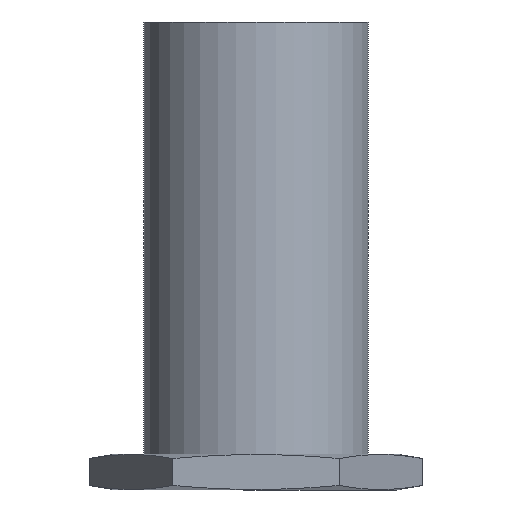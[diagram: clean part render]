
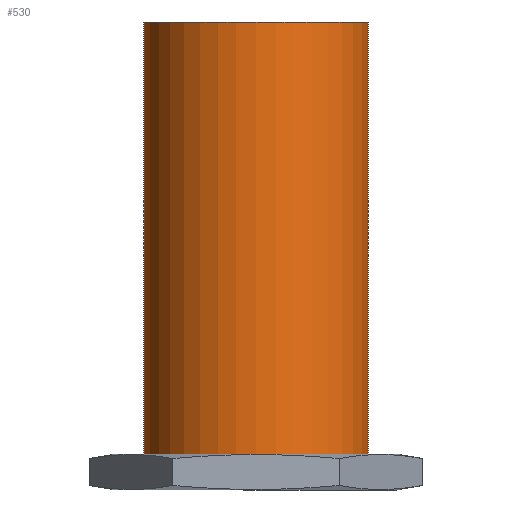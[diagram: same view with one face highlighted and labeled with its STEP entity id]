
A CAD part, front view. The second image highlights one B-rep face of the part: STEP entity #530.
In plain terms, the highlighted cylindrical face has radius 12.5 mm (diameter 25 mm), a partial arc.
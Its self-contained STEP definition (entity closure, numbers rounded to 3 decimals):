
#67 = CARTESIAN_POINT ( 'NONE',  ( -12.5, 0., 52. ) ) ;
#69 = CARTESIAN_POINT ( 'NONE',  ( 12.5, 0., 52. ) ) ;
#123 = CIRCLE ( 'NONE', #511, 12.5 ) ;
#159 = CARTESIAN_POINT ( 'NONE',  ( 12.5, 0., 52. ) ) ;
#319 = AXIS2_PLACEMENT_3D ( 'NONE', #555, #1522, #588 ) ;
#356 = DIRECTION ( 'NONE',  ( 1., 0., 0. ) ) ;
#387 = DIRECTION ( 'NONE',  ( 0., 0., 1. ) ) ;
#511 = AXIS2_PLACEMENT_3D ( 'NONE', #1317, #1497, #356 ) ;
#528 = ORIENTED_EDGE ( 'NONE', *, *, #1120, .T. ) ;
#530 = ADVANCED_FACE ( 'NONE', ( #2032 ), #881, .T. ) ;
#541 = VERTEX_POINT ( 'NONE', #69 ) ;
#555 = CARTESIAN_POINT ( 'NONE',  ( 0., 0., 52. ) ) ;
#588 = DIRECTION ( 'NONE',  ( -1., 0., 0. ) ) ;
#660 = VERTEX_POINT ( 'NONE', #1440 ) ;
#734 = VERTEX_POINT ( 'NONE', #2042 ) ;
#762 = AXIS2_PLACEMENT_3D ( 'NONE', #1975, #387, #1015 ) ;
#792 = ORIENTED_EDGE ( 'NONE', *, *, #1983, .F. ) ;
#881 = CYLINDRICAL_SURFACE ( 'NONE', #319, 12.5 ) ;
#905 = ORIENTED_EDGE ( 'NONE', *, *, #1837, .T. ) ;
#928 = LINE ( 'NONE', #1098, #1739 ) ;
#993 = DIRECTION ( 'NONE',  ( 0., 0., -1. ) ) ;
#1015 = DIRECTION ( 'NONE',  ( 1., 0., 0. ) ) ;
#1062 = VECTOR ( 'NONE', #993, 1000. ) ;
#1098 = CARTESIAN_POINT ( 'NONE',  ( -12.5, 0., 52. ) ) ;
#1120 = EDGE_CURVE ( 'NONE', #660, #734, #123, .T. ) ;
#1317 = CARTESIAN_POINT ( 'NONE',  ( 0., 0., 4. ) ) ;
#1371 = EDGE_LOOP ( 'NONE', ( #792, #1687, #905, #528 ) ) ;
#1440 = CARTESIAN_POINT ( 'NONE',  ( -12.5, 0., 4. ) ) ;
#1497 = DIRECTION ( 'NONE',  ( 0., 0., 1. ) ) ;
#1522 = DIRECTION ( 'NONE',  ( 0., 0., -1. ) ) ;
#1607 = VERTEX_POINT ( 'NONE', #67 ) ;
#1686 = EDGE_CURVE ( 'NONE', #1607, #541, #1770, .T. ) ;
#1687 = ORIENTED_EDGE ( 'NONE', *, *, #1686, .F. ) ;
#1739 = VECTOR ( 'NONE', #1748, 1000. ) ;
#1748 = DIRECTION ( 'NONE',  ( 0., 0., -1. ) ) ;
#1770 = CIRCLE ( 'NONE', #762, 12.5 ) ;
#1837 = EDGE_CURVE ( 'NONE', #1607, #660, #928, .T. ) ;
#1941 = LINE ( 'NONE', #159, #1062 ) ;
#1975 = CARTESIAN_POINT ( 'NONE',  ( 0., 0., 52. ) ) ;
#1983 = EDGE_CURVE ( 'NONE', #541, #734, #1941, .T. ) ;
#2032 = FACE_OUTER_BOUND ( 'NONE', #1371, .T. ) ;
#2042 = CARTESIAN_POINT ( 'NONE',  ( 12.5, 0., 4. ) ) ;
